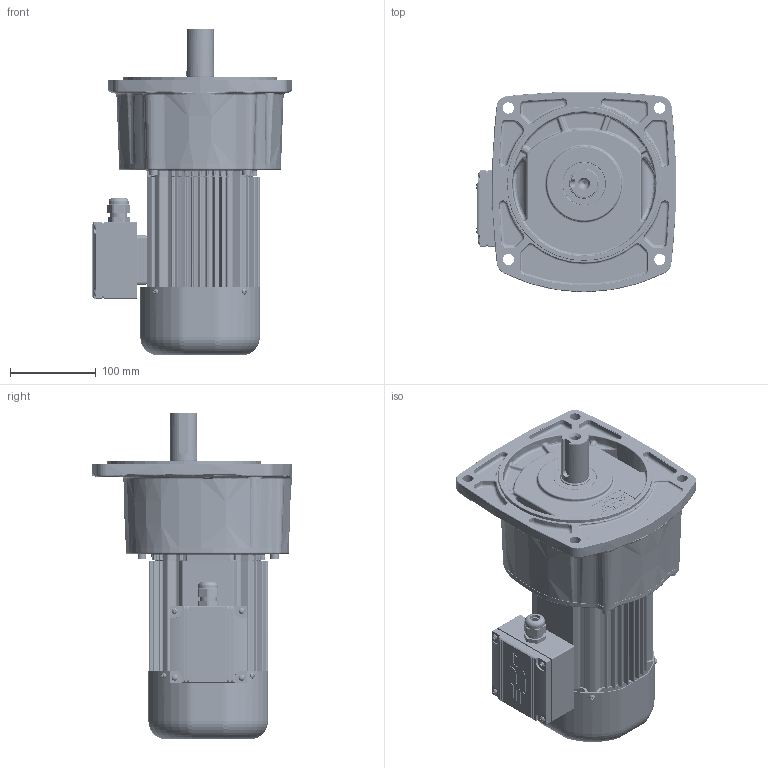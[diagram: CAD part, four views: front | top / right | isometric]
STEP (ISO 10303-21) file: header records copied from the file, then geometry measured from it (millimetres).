
FILE_DESCRIPTION(/* description */ (''),/* implementation_level */ '2;1');
FILE_NAME(/* name */ 'Z:\동력 3D 파일\PAF32_0.4kW_Brake_3D.stp',/* time_stamp */ '2021-11-08T15:28:02+09:00',/* author */ ('jaebok'),/* organization */ (''),/* preprocessor_version */ 'ST-DEVELOPER v18.1',/* originating_system */ 'Autodesk Inventor 2022',/* authorisation */ '');
FILE_SCHEMA (('AUTOMOTIVE_DESIGN { 1 0 10303 214 3 1 1 }'));
Products named in the file (1): 부품12
Bounding box: 233.18 x 233.68 x 381.5 mm (x, y, z)
Volume: 2567001.1 mm3; surface area: 748397.6 mm2
Topology: 3 solids, 22 shells, 4024 faces, 10070 edges, 5933 vertices
Faces by surface type: plane 1143, cylinder 1069, bspline 1059, torus 357, cone 268, sphere 128
Full cylindrical faces by diameter (mm): 1.5 x2, 2 x5, 3 x8, 3.242 x5, 3.25 x1, 3.3 x4, 3.6 x4, 3.8 x3, 4 x25, 4.2 x8, 4.917 x4, 5 x26, 5.8 x2, 5.9 x3, 6 x18, 6.4 x1, 6.5 x6, 6.8 x4, 7 x12, 7.9 x6, 8 x3, 8.5 x1, 8.7 x1, 10 x5, 10.106 x1, 12.5 x1, 15 x1, 18 x1, 19 x1, 20 x2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
Entity records: 165332 total; most frequent: CARTESIAN_POINT 72702, ORIENTED_EDGE 19564, DIRECTION 17150, EDGE_CURVE 9782, AXIS2_PLACEMENT_3D 7016, VERTEX_POINT 5928, EDGE_LOOP 4310, FACE_OUTER_BOUND 4024
